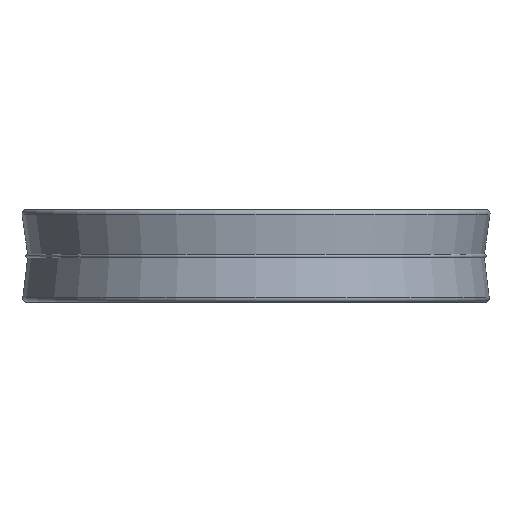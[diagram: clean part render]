
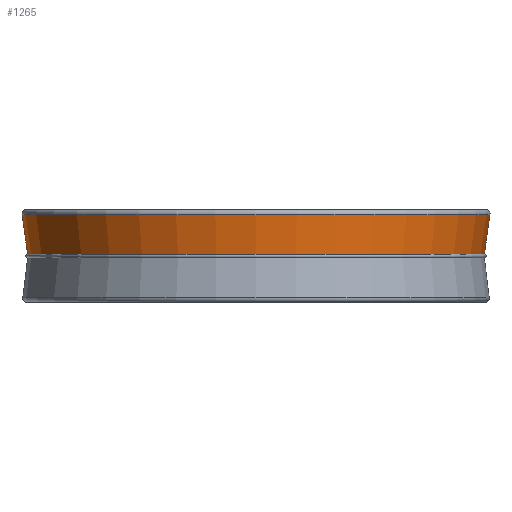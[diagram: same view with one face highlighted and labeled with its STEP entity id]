
A CAD part, front view. The second image highlights one B-rep face of the part: STEP entity #1265.
In plain terms, the highlighted conical face has half-angle 8.066 degrees and reference radius 128.3 mm.
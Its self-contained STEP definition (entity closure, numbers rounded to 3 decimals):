
#9 = DIRECTION ( 'NONE',  ( -1., 0., 0. ) ) ;
#73 = CARTESIAN_POINT ( 'NONE',  ( -128.3, 0., 17.577 ) ) ;
#109 = DIRECTION ( 'NONE',  ( 0., 0., 1. ) ) ;
#117 = DIRECTION ( 'NONE',  ( 1., 0., 0. ) ) ;
#158 = VERTEX_POINT ( 'NONE', #1193 ) ;
#206 = EDGE_CURVE ( 'NONE', #158, #483, #656, .T. ) ;
#222 = EDGE_CURVE ( 'NONE', #158, #706, #788, .T. ) ;
#284 = DIRECTION ( 'NONE',  ( 0.14, 0., 0.99 ) ) ;
#295 = EDGE_CURVE ( 'NONE', #706, #756, #578, .T. ) ;
#329 = AXIS2_PLACEMENT_3D ( 'NONE', #409, #1196, #117 ) ;
#332 = VECTOR ( 'NONE', #1080, 1000. ) ;
#347 = ORIENTED_EDGE ( 'NONE', *, *, #295, .T. ) ;
#362 = CARTESIAN_POINT ( 'NONE',  ( -128.3, 0., 17.577 ) ) ;
#385 = DIRECTION ( 'NONE',  ( 0., 0., -1. ) ) ;
#409 = CARTESIAN_POINT ( 'NONE',  ( 0., 0., 39.891 ) ) ;
#436 = ORIENTED_EDGE ( 'NONE', *, *, #732, .F. ) ;
#483 = VERTEX_POINT ( 'NONE', #362 ) ;
#541 = ORIENTED_EDGE ( 'NONE', *, *, #222, .T. ) ;
#578 = CIRCLE ( 'NONE', #329, 131.462 ) ;
#607 = FACE_OUTER_BOUND ( 'NONE', #715, .T. ) ;
#616 = AXIS2_PLACEMENT_3D ( 'NONE', #962, #385, #865 ) ;
#656 = CIRCLE ( 'NONE', #616, 128.3 ) ;
#706 = VERTEX_POINT ( 'NONE', #777 ) ;
#715 = EDGE_LOOP ( 'NONE', ( #730, #541, #347, #436 ) ) ;
#730 = ORIENTED_EDGE ( 'NONE', *, *, #206, .F. ) ;
#732 = EDGE_CURVE ( 'NONE', #483, #756, #979, .T. ) ;
#756 = VERTEX_POINT ( 'NONE', #1253 ) ;
#777 = CARTESIAN_POINT ( 'NONE',  ( 131.462, 0., 39.891 ) ) ;
#788 = LINE ( 'NONE', #1180, #823 ) ;
#823 = VECTOR ( 'NONE', #284, 1000. ) ;
#865 = DIRECTION ( 'NONE',  ( 1., 0., 0. ) ) ;
#962 = CARTESIAN_POINT ( 'NONE',  ( 0., 0., 17.577 ) ) ;
#979 = LINE ( 'NONE', #73, #332 ) ;
#1040 = CONICAL_SURFACE ( 'NONE', #1221, 128.3, 0.141 ) ;
#1080 = DIRECTION ( 'NONE',  ( -0.14, 0., 0.99 ) ) ;
#1180 = CARTESIAN_POINT ( 'NONE',  ( 128.3, 0., 17.577 ) ) ;
#1193 = CARTESIAN_POINT ( 'NONE',  ( 128.3, 0., 17.577 ) ) ;
#1194 = CARTESIAN_POINT ( 'NONE',  ( 0., 0., 17.577 ) ) ;
#1196 = DIRECTION ( 'NONE',  ( 0., 0., -1. ) ) ;
#1221 = AXIS2_PLACEMENT_3D ( 'NONE', #1194, #109, #9 ) ;
#1253 = CARTESIAN_POINT ( 'NONE',  ( -131.462, 0., 39.891 ) ) ;
#1265 = ADVANCED_FACE ( 'NONE', ( #607 ), #1040, .T. ) ;
